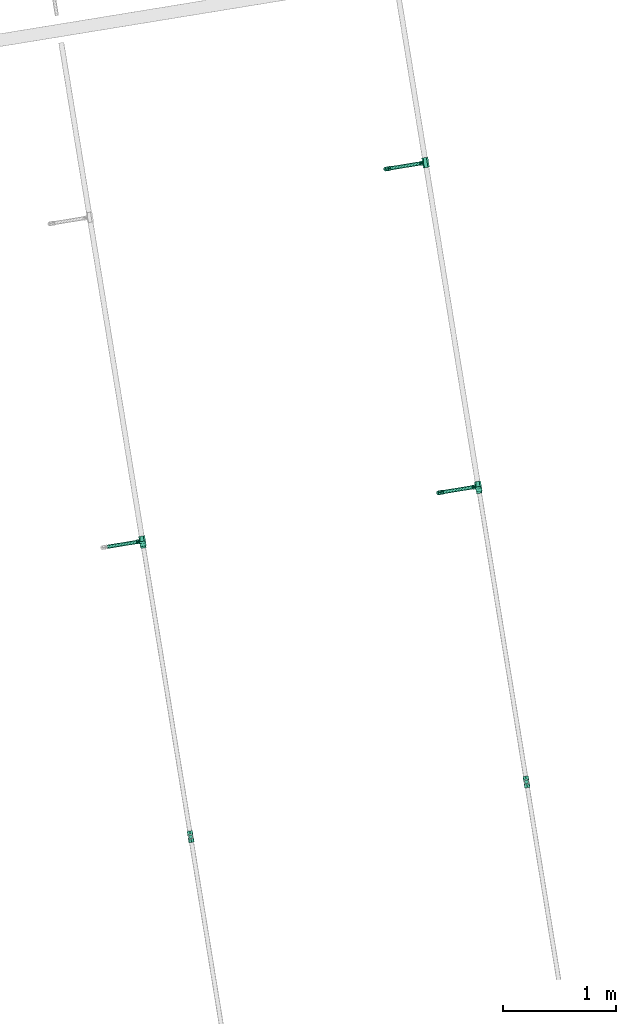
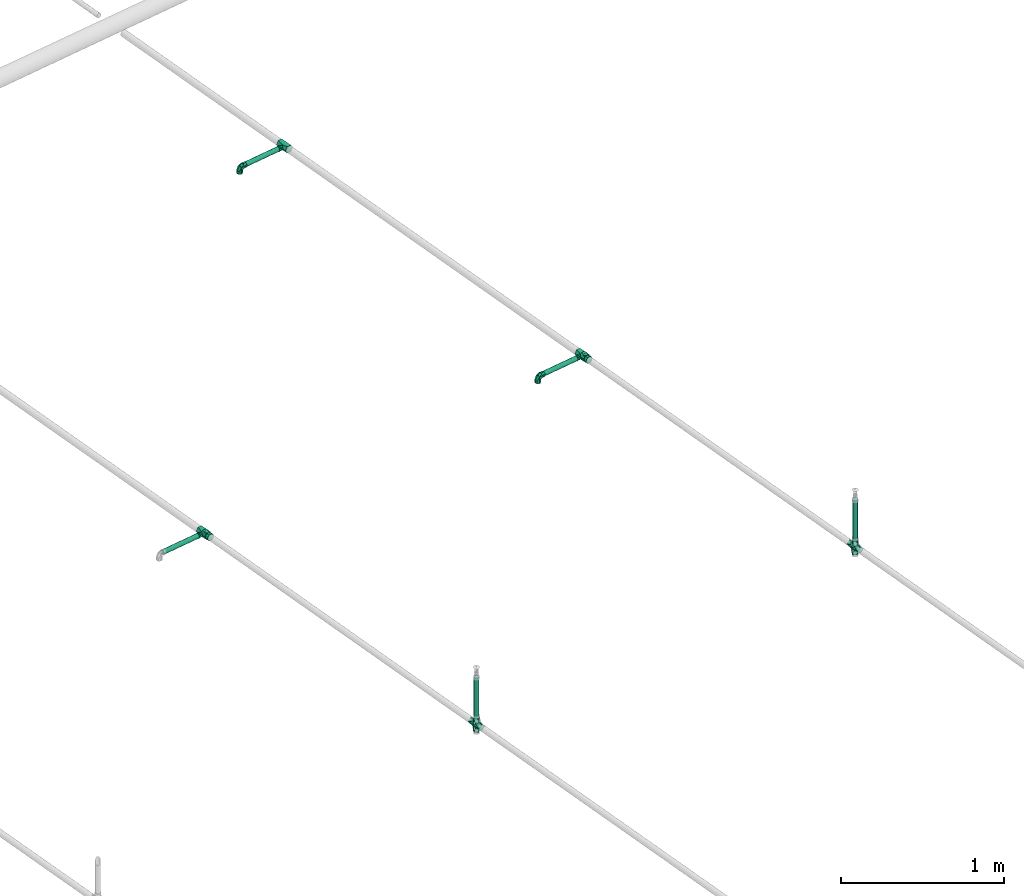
# One storey, part 22 of 56: 9 flow fittings, 5 flow segments.
"""IFC2X3 building model written with IfcOpenShell, lengths in millimetres."""

from ifc_helpers import new_model, entity, si_unit, converted_unit, derived_unit, direction, frame, origin, origin_with_axes, origin_2d_with_axis, place, context, subcontext, project, spatial, circle, extrude, faceted_brep, source, transform, mapped, material, type_object, element, save


model = new_model("IFC2X3")

# Units and contexts
model_context = context("Model", 3, precision=0.01, world=origin(), true_north=direction((6.12323399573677e-17, 1.0)))
plan_context = context("Plan", 3, precision=1e-05, world=origin_with_axes())
body_context = subcontext(model_context, "Body", "Model", "MODEL_VIEW")
ifc_project = project(units=[converted_unit("PLANEANGLEUNIT", "DEGREE", entity("IfcPositiveLengthMeasure", 0.0174532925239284), si_unit("PLANEANGLEUNIT", "RADIAN"), dimensions=[0, 0, 0, 0, 0, 0, 0]), si_unit("AREAUNIT", "SQUARE_METRE"), si_unit("LENGTHUNIT", "METRE", prefix="MILLI"), si_unit("MASSUNIT", "GRAM", prefix="KILO"), si_unit("POWERUNIT", "WATT"), si_unit("PRESSUREUNIT", "PASCAL", prefix="KILO"), si_unit("FORCEUNIT", "NEWTON", prefix="KILO"), si_unit("ELECTRICVOLTAGEUNIT", "VOLT"), si_unit("ELECTRICCURRENTUNIT", "AMPERE"), si_unit("THERMODYNAMICTEMPERATUREUNIT", "DEGREE_CELSIUS"), si_unit("TIMEUNIT", "SECOND"), si_unit("VOLUMEUNIT", "CUBIC_METRE"), derived_unit("LINEARVELOCITYUNIT", [(si_unit("LENGTHUNIT", "METRE"), 1), (si_unit("TIMEUNIT", "SECOND"), -1)]), derived_unit("VOLUMETRICFLOWRATEUNIT", [(si_unit("VOLUMEUNIT", "CUBIC_METRE"), 1), (si_unit("TIMEUNIT", "SECOND"), -1)]), derived_unit("THERMALTRANSMITTANCEUNIT", [(si_unit("POWERUNIT", "WATT"), 1), (si_unit("THERMODYNAMICTEMPERATUREUNIT", "KELVIN"), -1), (si_unit("AREAUNIT", "SQUARE_METRE"), -1)]), derived_unit("SOUNDPRESSUREUNIT", [(si_unit("PRESSUREUNIT", "PASCAL"), 1)])], contexts=[model_context, plan_context])

# Site, building, storey
site_placement = place(None, frame((-3.09682673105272e-06, 1.93776733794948e-05, 0.0), z_axis=(0.0, 0.0, 1.0), x_axis=(-0.160806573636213, 0.986985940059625, 0.0)))
site = spatial("IfcSite", under=ifc_project, at=site_placement, Name="Default", CompositionType="ELEMENT")
building_placement = place(site_placement, frame((0.0, 0.0, 0.0), z_axis=(0.0, 0.0, 1.0), x_axis=(1.0, -2.77555756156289e-17, 0.0)))
building = spatial("IfcBuilding", under=site, at=building_placement, Name="Bygning (endres i Project Information)", CompositionType="ELEMENT")
storey_placement = place(building_placement, frame((0.0, 0.0, 51360.0000000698), z_axis=(0.0, 0.0, 1.0), x_axis=(1.0, -2.77555756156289e-17, 0.0)))
storey = spatial("IfcBuildingStorey", under=building, at=storey_placement, Name="H01-Nivå D+0,36", CompositionType="ELEMENT", Elevation=51360.0000000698)

# Flow fittings
ifc_material = material(Name="3320.001")
pipe_fitting_type_1 = type_object("IfcPipeFittingType", Name="RS_53_PIF_UN_Cross-EN10241_MC_gen:RS_53_PIF_UN_Cross-EN10241_MC_gen", PredefinedType="NOTDEFINED", material=ifc_material)
shared_shape_1 = source(origin(), body_context, "Body", "Brep", [
    faceted_brep([(51.0, -12.2500000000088, 12.2499999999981), (51.0, 0.0, 24.4999999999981), (15.8118687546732, -15.8118687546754, 18.7145613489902), (20.1559343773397, -20.155934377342, 9.35728067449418), (24.5000000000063, -24.5000000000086, 0.0), (51.0, -19.2143724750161, 5.28562752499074), (0.0, 0.0, 24.4999999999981), (-15.8118687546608, -15.8118687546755, 18.7145613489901), (-51.0, 0.0, 24.4999999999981), (51.0, -24.5000000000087, 0.0), (-24.4999999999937, -24.5000000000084, 0.0), (-51.0, -18.3750000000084, 6.12499999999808), (-51.0, -24.5000000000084, 0.0), (24.5000000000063, 24.4999999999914, 0.0), (51.0, 18.3749999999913, 6.12499999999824), (51.0, 24.4999999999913, 0.0), (-24.4999999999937, 24.4999999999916, 0.0), (-51.0, 24.4999999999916, 0.0), (-51.0, 19.2143723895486, 5.28562761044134), (20.1559343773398, 20.1559343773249, 9.35728067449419), (15.8118687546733, 15.8118687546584, 18.7145613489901), (51.0, 12.2499999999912, 12.2499999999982), (-15.8118687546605, 15.8118687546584, 18.7145613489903), (51.0, 12.2499999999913, -12.2500000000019), (51.0, 0.0, -24.5000000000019), (15.8118687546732, 15.8118687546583, -18.714561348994), (51.0, 19.2143723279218, -5.28562767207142), (-51.0, 18.3749999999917, -6.12500000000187), (20.1559343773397, 20.1559343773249, -9.35728067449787), (0.0, 0.0, -24.5000000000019), (-15.8118687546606, 15.8118687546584, -18.7145613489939), (-51.0, 0.0, -24.5000000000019), (51.0, -18.3750000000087, -6.12500000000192), (15.8118687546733, -15.8118687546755, -18.7145613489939), (51.0, -12.2500000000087, -12.2500000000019), (20.1559343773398, -20.1559343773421, -9.35728067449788), (-12.2499999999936, -51.0, -12.2500000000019), (0.0, -51.0, -24.5000000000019), (12.2500000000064, -51.0, -12.2500000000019), (19.2143723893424, -51.0, -5.28562761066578), (24.5000000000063, -51.0, 0.0), (18.3750000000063, -51.0, 6.12499999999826), (12.2500000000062, -51.0, 12.2499999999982), (0.0, -51.0, 24.4999999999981), (-12.2499999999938, -51.0, 12.2499999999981), (-19.2143725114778, -51.0, 5.28562748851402), (-24.4999999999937, -51.0, 0.0), (-20.1559343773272, -20.155934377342, 9.35728067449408), (0.0, 51.0, 24.4999999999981), (-18.3749999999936, 51.0, 6.12499999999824), (-24.4999999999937, 51.0, 0.0), (24.5000000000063, 51.0, 0.0), (19.2143725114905, 51.0, 5.28562748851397), (18.3750000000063, 51.0, -6.12500000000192), (0.0, 51.0, -24.5000000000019), (-19.1158956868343, -19.115895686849, -10.1450468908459), (-13.7317913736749, -13.7317913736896, -20.2900937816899), (12.2500000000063, 51.0, -12.2500000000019), (-12.2499999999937, 51.0, -12.2500000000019), (-19.2143723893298, 51.0, -5.28562761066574), (-12.2499999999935, 51.0, 12.2499999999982), (12.2500000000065, 51.0, 12.2499999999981), (-20.1559343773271, 20.155934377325, 9.35728067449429), (-20.1559343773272, 20.155934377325, -9.35728067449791), (-51.0, -12.2500000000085, 12.2499999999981), (-51.0, 12.2499999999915, 12.2499999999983), (-51.0, 12.2499999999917, -12.2500000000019), (-51.0, -12.2500000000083, -12.2500000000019)], [[[0, 1, 2]], [[3, 4, 5]], [[2, 3, 0]], [[1, 6, 2]], [[7, 6, 8]], [[4, 9, 5]], [[10, 11, 12]], [[13, 14, 15]], [[16, 17, 18]], [[19, 20, 21]], [[20, 1, 21]], [[6, 1, 20]], [[22, 8, 6]], [[14, 13, 19]], [[19, 21, 14]], [[0, 3, 5]], [[23, 24, 25]], [[13, 15, 26]], [[16, 27, 17]], [[28, 13, 26]], [[25, 28, 23]], [[24, 29, 25]], [[30, 29, 31]], [[23, 28, 26]], [[4, 32, 9]], [[33, 24, 34]], [[29, 24, 33]], [[35, 33, 34]], [[35, 34, 32]], [[32, 4, 35]], [[36, 37, 38, 39, 40, 41, 42, 43, 44, 45, 46]], [[44, 43, 7]], [[47, 10, 45]], [[7, 47, 44]], [[43, 6, 7]], [[6, 48, 22]], [[10, 46, 45]], [[16, 49, 50]], [[4, 41, 40]], [[13, 51, 52]], [[3, 2, 42]], [[2, 43, 42]], [[6, 43, 2]], [[48, 6, 20]], [[41, 4, 3]], [[3, 42, 41]], [[44, 47, 45]], [[38, 37, 33]], [[4, 40, 39]], [[13, 53, 51]], [[35, 4, 39]], [[33, 35, 38]], [[37, 29, 33]], [[29, 54, 25]], [[38, 35, 39]], [[46, 55, 36]], [[56, 37, 36]], [[29, 37, 56]], [[55, 56, 36]], [[55, 46, 10]], [[53, 57, 54, 58, 59, 50, 49, 60, 48, 61, 52, 51]], [[61, 48, 20]], [[19, 13, 52]], [[20, 19, 61]], [[62, 22, 60]], [[22, 48, 60]], [[49, 16, 62]], [[62, 60, 49]], [[61, 19, 52]], [[58, 54, 30]], [[16, 50, 59]], [[63, 16, 59]], [[30, 63, 58]], [[54, 29, 30]], [[58, 63, 59]], [[25, 54, 57]], [[28, 25, 57]], [[28, 57, 53]], [[53, 13, 28]], [[12, 11, 64, 8, 65, 18, 17, 27, 66, 31, 67]], [[32, 34, 24, 23, 26, 15, 14, 21, 1, 0, 5, 9]], [[47, 64, 11]], [[7, 8, 64]], [[11, 10, 47]], [[22, 62, 65]], [[62, 16, 18]], [[65, 8, 22]], [[65, 62, 18]], [[47, 7, 64]], [[63, 66, 27]], [[27, 16, 63]], [[63, 30, 66]], [[67, 55, 12]], [[30, 31, 66]], [[55, 10, 12]], [[67, 31, 56]], [[56, 31, 29]], [[67, 56, 55]]]),
])
for number, where, z_axis, x_axis in (
    (1, (1000236.26325463, -395286.663841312, 3370.0), (-2.77555756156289e-17, -1.0, 0.0), (0.0, 0.0, 1.0)),
    (2, (1000236.26325463, -392286.663841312, 3370.0), (-2.77555756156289e-17, -1.0, 0.0), (0.0, 0.0, 1.0)),
):
    element("IfcFlowFitting", number, at=place(storey_placement, frame(where, z_axis=z_axis, x_axis=x_axis)), inside=storey, type_object=pipe_fitting_type_1, material=ifc_material, Name="RS_53_PIF_UN_Cross-EN10241_MC_gen:RS_53_PIF_UN_Cross-EN10241_MC_gen", ObjectType="RS_53_PIF_UN_Cross-EN10241_MC_gen:RS_53_PIF_UN_Cross-EN10241_MC_gen", context=body_context, shape_type="MappedRepresentation", body=[
        mapped(shared_shape_1, transform((0.0, 0.0, 0.0), scale=1.0)),
    ])
pipe_fitting_type_2 = type_object("IfcPipeFittingType", Name="RS_53_PIF_UN_Tee-Reduced-EN10241_MC_gen:RS_53_PIF_UN_Tee-Reduced-EN10241_MC_gen", PredefinedType="NOTDEFINED", material=ifc_material)
shared_shape_2 = source(origin(), body_context, "Body", "Brep", [
    faceted_brep([(44.0, -28.0, 0.0), (44.0, -21.0, -12.124355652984), (44.0, -14.0, -24.2487113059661), (44.0, 0.0, -24.2487113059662), (44.0, 14.0, -24.2487113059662), (44.0, 21.0, -12.1243556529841), (44.0, 28.0, 0.0), (44.0, 21.0, 12.1243556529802), (44.0, 14.0, 24.2487113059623), (44.0, 0.0, 24.2487113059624), (44.0, -14.0, 24.2487113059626), (44.0, -21.0, 12.1243556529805), (-44.0, -28.0, 0.0), (-44.0, -21.0, 12.1243556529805), (-44.0, -14.0, 24.2487113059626), (-44.0, 0.0, 24.2487113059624), (-44.0, 14.0, 24.2487113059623), (-44.0, 21.0, 12.1243556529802), (-44.0, 28.0, 0.0), (-44.0, 20.982647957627, -12.1544102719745), (-44.0, 14.0, -24.2487113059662), (-44.0, 0.0, -24.2487113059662), (-44.0, -14.0, -24.2487113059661), (-44.0, -21.0, -12.124355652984), (3.55028427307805, -20.1628871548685, 19.4282778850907), (11.6501421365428, -24.0814435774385, 9.71413894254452), (-19.7499999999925, -28.0, 0.0), (-8.09985786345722, -24.0814435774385, 9.71413894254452), (19.7500000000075, -28.0, 0.0), (-11.6531711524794, -24.0819773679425, -9.71358493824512), (-3.55634230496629, -20.1639547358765, -19.4271698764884), (8.0968288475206, -24.0819773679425, -9.71358493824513), (9.87500000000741, -52.0, -17.1040017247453), (14.8125000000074, -52.0, -8.55200086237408), (19.7500000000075, -52.0, 0.0), (14.8125000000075, -52.0, 8.55200086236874), (9.87500000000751, -52.0, 17.1040017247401), (0.0, -52.0, 17.1040017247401), (-9.87499999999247, -52.0, 17.1040017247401), (-14.8124999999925, -52.0, 8.55200086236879), (-19.7499999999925, -52.0, 0.0), (-14.8124999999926, -52.0, -8.55200086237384), (-9.87499999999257, -52.0, -17.1040017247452), (0.0, -52.0, -17.1040017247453)], [[[0, 1, 2, 3, 4, 5, 6, 7, 8, 9, 10, 11]], [[12, 13, 14, 15, 16, 17, 18, 19, 20, 21, 22, 23]], [[7, 6, 18, 17, 16, 8]], [[8, 16, 15, 9]], [[15, 14, 24]], [[11, 24, 25]], [[24, 9, 15]], [[12, 26, 13]], [[13, 26, 27, 24]], [[0, 11, 25]], [[0, 25, 28]], [[24, 14, 13]], [[24, 11, 10]], [[9, 24, 10]], [[19, 18, 6, 5, 4, 20]], [[23, 29, 12]], [[30, 1, 28, 31]], [[23, 30, 29]], [[12, 29, 26]], [[1, 0, 28]], [[23, 22, 30]], [[21, 20, 4, 3]], [[30, 21, 3]], [[30, 3, 2]], [[30, 2, 1]], [[21, 30, 22]], [[32, 33, 34, 35, 36, 37, 38, 39, 40, 41, 42, 43]], [[26, 41, 40]], [[29, 42, 41]], [[31, 43, 30]], [[32, 31, 33]], [[30, 42, 29]], [[28, 33, 31]], [[31, 32, 43]], [[34, 33, 28]], [[43, 42, 30]], [[26, 29, 41]], [[28, 35, 34]], [[25, 36, 35]], [[27, 37, 24]], [[38, 27, 39]], [[24, 36, 25]], [[26, 39, 27]], [[27, 38, 37]], [[40, 39, 26]], [[37, 36, 24]], [[28, 25, 35]]]),
])
for number, where, z_axis, x_axis in (
    (3, (1002876.93557438, -395286.663841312, 3370.0), (0.0, 0.0, 1.0), (-1.0, 2.77555756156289e-17, 0.0)),
    (4, (1005768.93557438, -395286.663841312, 3370.0), (0.0, 0.0, 1.0), (-1.0, 2.77555756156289e-17, 0.0)),
    (5, (1002876.93557438, -392286.663841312, 3370.0), (0.0, 0.0, 1.0), (-1.0, 2.77555756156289e-17, 0.0)),
):
    element("IfcFlowFitting", number, at=place(storey_placement, frame(where, z_axis=z_axis, x_axis=x_axis)), inside=storey, type_object=pipe_fitting_type_2, material=ifc_material, Name="RS_53_PIF_UN_Tee-Reduced-EN10241_MC_gen:RS_53_PIF_UN_Tee-Reduced-EN10241_MC_gen", ObjectType="RS_53_PIF_UN_Tee-Reduced-EN10241_MC_gen:RS_53_PIF_UN_Tee-Reduced-EN10241_MC_gen", context=body_context, shape_type="MappedRepresentation", body=[
        mapped(shared_shape_2, transform((0.0, 0.0, 0.0), scale=1.0)),
    ])
pipe_fitting_type_3 = type_object("IfcPipeFittingType", Name="RS_53_PIF_UN_Reducing-Socket-EN10241_MC_gen:RS_53_PIF_UN_Reducing-Socket-EN10241_MC_gen", PredefinedType="NOTDEFINED", material=ifc_material)
shared_shape_3 = source(origin(), body_context, "Body", "Brep", [
    faceted_brep([(0.0, -7.24693326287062, 27.0459231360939), (0.0, 0.0, 28.0), (0.0, 7.24693326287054, 27.0459231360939), (0.0, 14.0, 24.2487113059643), (0.0, 19.7989898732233, 19.7989898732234), (0.0, 24.2487113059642, 14.0), (0.0, 27.0459231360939, 7.24693326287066), (0.0, 28.0, 0.0), (0.0, 27.0459231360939, -7.24693326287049), (0.0, 24.2487113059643, -14.0), (0.0, 19.7989898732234, -19.7989898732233), (0.0, 14.0, -24.2487113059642), (0.0, 7.2469332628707, -27.0459231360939), (0.0, 0.0, -28.0), (0.0, -7.24693326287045, -27.0459231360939), (0.0, -14.0, -24.2487113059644), (0.0, -19.7989898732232, -19.7989898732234), (0.0, -24.2487113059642, -14.0), (0.0, -27.0459231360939, -7.24693326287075), (0.0, -28.0, 0.0), (0.0, -27.0459231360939, 7.24693326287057), (0.0, -24.2487113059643, 14.0), (0.0, -19.7989898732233, 19.7989898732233), (0.0, -14.0, 24.2487113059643), (20.0, 9.43067316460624, -25.9117989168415), (20.0, 21.4490865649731, -17.9982411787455), (20.0, 23.8802189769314, -13.7874602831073), (20.0, 26.3113513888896, -9.57667938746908), (20.0, 17.7243837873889, -21.1235683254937), (20.0, 13.9996810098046, -24.248895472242), (20.0, 27.1556756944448, -4.7883396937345), (20.0, 4.86166531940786, -27.5747023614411), (20.0, -0.000544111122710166, -27.5746064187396), (20.0, -4.86275354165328, -27.5745104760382), (20.0, 28.0, 0.0), (20.0, -14.0006379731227, -24.2483429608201), (20.0, -9.43169575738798, -25.9114267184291), (20.0, -23.8807630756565, -13.7865178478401), (20.0, -26.3117293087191, -9.57564101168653), (20.0, -21.449796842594, -17.9973946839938), (20.0, -17.7252174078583, -21.122868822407), (20.0, -28.0, 0.0), (20.0, -21.4497968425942, 17.9973946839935), (20.0, -23.8807630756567, 13.7865178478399), (20.0, -26.3117293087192, 9.57564101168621), (20.0, -17.7252174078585, 21.1228688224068), (20.0, -14.0006379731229, 24.24834296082), (20.0, -9.43169575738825, 25.9114267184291), (20.0, -4.86275354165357, 27.5745104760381), (20.0, -0.000544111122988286, 27.5746064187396), (20.0, 4.86166531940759, 27.5747023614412), (20.0, 27.1556756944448, 4.78833969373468), (20.0, 13.9996810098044, 24.2488954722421), (20.0, 9.43067316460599, 25.9117989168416), (20.0, 17.7243837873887, 21.1235683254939), (20.0, 21.449086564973, 17.9982411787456), (20.0, 26.3113513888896, 9.57667938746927), (20.0, 23.8802189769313, 13.7874602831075), (40.0, -23.0225328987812, -8.37931852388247), (40.0, -24.5000000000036, 0.0), (40.0, -18.7681935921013, -15.7481716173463), (40.0, 15.5089992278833, -18.482994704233), (40.0, 12.2499395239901, -21.2176573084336), (40.0, -12.2501209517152, -21.2175525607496), (40.0, -20.8953632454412, -12.0637450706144), (40.0, -15.5091572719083, -18.4828620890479), (40.0, -0.000103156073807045, -24.1277879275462), (40.0, -4.25449497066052, -24.1277697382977), (40.0, -8.25230796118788, -22.6726611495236), (40.0, 4.25428865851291, -24.1278061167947), (40.0, 8.25211409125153, -22.6727317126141), (40.0, 20.8952600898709, -12.0639237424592), (40.0, 18.7680589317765, -15.7483321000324), (40.0, 23.6863464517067, -4.61444575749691), (40.0, 23.0224612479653, -8.37951538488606), (40.0, 24.4999999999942, 0.0), (40.0, 23.7612306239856, -4.18975769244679), (40.0, 23.6863464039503, 4.61444602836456), (40.0, 23.7612306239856, 4.18975769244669), (40.0, 12.2499395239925, 21.2176573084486), (40.0, -12.250120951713, 21.2175525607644), (40.0, -15.509157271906, 18.4828620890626), (40.0, 18.7680589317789, 15.7483321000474), (40.0, 20.8952600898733, 12.0639237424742), (40.0, 4.2542886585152, 24.1278061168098), (40.0, 15.5089992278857, 18.482994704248), (40.0, 23.0224612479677, 8.37951538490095), (40.0, 8.25211409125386, 22.6727317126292), (40.0, -4.25449497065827, 24.1277697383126), (40.0, -18.7681935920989, 15.7481716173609), (40.0, -8.25230796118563, 22.6726611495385), (40.0, -23.0225328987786, 8.37931852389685), (40.0, -0.000103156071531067, 24.1277879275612), (40.0, -20.8953632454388, 12.0637450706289), (60.0, -12.25, -21.2176223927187), (60.0, -6.34106660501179, -23.6651827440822), (60.0, 0.0, -24.5), (60.0, 6.34106660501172, -23.6651827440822), (60.0, 12.25, -21.2176223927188), (60.0, 17.3241161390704, -17.3241161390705), (60.0, 21.2176223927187, -12.2500000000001), (60.0, 23.6651827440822, -6.34106660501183), (60.0, 24.5, 0.0), (60.0, 23.6651827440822, 6.34106660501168), (60.0, 21.2176223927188, 12.2499999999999), (60.0, 17.3241161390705, 17.3241161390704), (60.0, 12.2500000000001, 21.2176223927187), (60.0, 6.34106660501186, 23.6651827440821), (60.0, 0.0, 24.5), (60.0, -6.34106660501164, 23.6651827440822), (60.0, -12.2499999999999, 21.2176223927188), (60.0, -17.3241161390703, 17.3241161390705), (60.0, -21.2176223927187, 12.2500000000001), (60.0, -23.6651827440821, 6.34106660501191), (60.0, -24.5, 0.0), (60.0, -23.6651827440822, -6.34106660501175), (60.0, -21.2176223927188, -12.25), (60.0, -17.3241161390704, -17.3241161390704)], [[[0, 1, 2, 3, 4, 5, 6, 7, 8, 9, 10, 11, 12, 13, 14, 15, 16, 17, 18, 19, 20, 21, 22, 23]], [[12, 11, 24]], [[25, 10, 9]], [[26, 25, 9, 27]], [[11, 28, 29]], [[30, 27, 8]], [[8, 7, 30]], [[8, 27, 9]], [[24, 31, 12]], [[28, 10, 25]], [[32, 33, 13, 31]], [[11, 29, 24]], [[10, 28, 11]], [[7, 34, 30]], [[14, 13, 33]], [[35, 15, 36]], [[37, 38, 17, 39]], [[14, 36, 15]], [[38, 18, 17]], [[40, 39, 16]], [[36, 14, 33]], [[16, 39, 17]], [[15, 35, 40]], [[38, 41, 18]], [[41, 19, 18]], [[12, 31, 13]], [[16, 15, 40]], [[20, 19, 41]], [[42, 22, 21]], [[43, 42, 21, 44]], [[23, 45, 46]], [[20, 41, 44]], [[47, 48, 0]], [[45, 22, 42]], [[49, 50, 1, 48]], [[22, 45, 23]], [[2, 1, 50]], [[0, 48, 1]], [[6, 51, 7]], [[52, 3, 53]], [[20, 44, 21]], [[0, 23, 47]], [[4, 3, 54]], [[51, 34, 7]], [[2, 53, 3]], [[54, 55, 4]], [[53, 2, 50]], [[23, 46, 47]], [[4, 55, 5]], [[6, 5, 56]], [[56, 51, 6]], [[3, 52, 54]], [[5, 55, 57, 56]], [[58, 59, 38]], [[60, 39, 40]], [[61, 62, 28]], [[58, 38, 37]], [[63, 35, 36]], [[64, 39, 60]], [[59, 41, 38]], [[65, 35, 63]], [[37, 39, 64]], [[66, 67, 32]], [[40, 35, 65]], [[36, 33, 68]], [[68, 33, 67]], [[31, 69, 66]], [[69, 31, 24]], [[28, 25, 61]], [[70, 29, 62]], [[71, 72, 26]], [[30, 73, 27]], [[25, 26, 72]], [[64, 58, 37]], [[62, 29, 28]], [[27, 73, 74]], [[30, 75, 76, 73]], [[26, 27, 71]], [[65, 60, 40]], [[61, 25, 72]], [[27, 74, 71]], [[75, 30, 34]], [[32, 67, 33]], [[32, 31, 66]], [[24, 29, 70]], [[70, 69, 24]], [[68, 63, 36]], [[51, 77, 78, 75]], [[52, 79, 54]], [[80, 46, 81]], [[57, 82, 83]], [[84, 53, 50]], [[85, 54, 79]], [[77, 56, 86]], [[34, 51, 75]], [[85, 55, 54]], [[87, 52, 53]], [[51, 56, 77]], [[83, 86, 56]], [[57, 55, 82]], [[49, 48, 88]], [[47, 46, 80]], [[81, 45, 89]], [[87, 53, 84]], [[90, 47, 80]], [[44, 59, 91]], [[43, 44, 91]], [[79, 52, 87]], [[45, 42, 89]], [[92, 49, 88]], [[47, 90, 48]], [[42, 43, 93]], [[81, 46, 45]], [[82, 55, 85]], [[93, 43, 91]], [[41, 59, 44]], [[57, 83, 56]], [[88, 48, 90]], [[50, 49, 92]], [[89, 42, 93]], [[84, 50, 92]], [[94, 95, 96, 97, 98, 99, 100, 101, 102, 103, 104, 105, 106, 107, 108, 109, 110, 111, 112, 113, 114, 115, 116, 117]], [[115, 114, 59]], [[60, 117, 116]], [[64, 60, 116, 58]], [[94, 65, 63]], [[115, 59, 58]], [[68, 67, 95]], [[65, 117, 60]], [[66, 69, 96, 67]], [[117, 65, 94]], [[69, 97, 96]], [[95, 67, 96]], [[97, 70, 98]], [[70, 62, 98]], [[74, 101, 100]], [[95, 94, 68]], [[98, 62, 61]], [[76, 75, 102]], [[115, 58, 116]], [[97, 69, 70]], [[99, 72, 100]], [[61, 72, 99]], [[99, 98, 61]], [[71, 74, 100, 72]], [[101, 76, 102]], [[94, 63, 68]], [[101, 74, 73, 76]], [[107, 106, 87]], [[82, 105, 104]], [[83, 82, 104, 86]], [[106, 85, 79]], [[103, 78, 77, 86]], [[103, 102, 78]], [[103, 86, 104]], [[87, 84, 107]], [[85, 105, 82]], [[92, 88, 108, 84]], [[106, 79, 87]], [[105, 85, 106]], [[102, 75, 78]], [[109, 108, 88]], [[80, 110, 90]], [[93, 91, 112, 89]], [[109, 90, 110]], [[91, 113, 112]], [[81, 89, 111]], [[90, 109, 88]], [[111, 89, 112]], [[110, 80, 81]], [[91, 59, 113]], [[59, 114, 113]], [[107, 84, 108]], [[111, 110, 81]]]),
])
for number, where, z_axis, x_axis in (
    (6, (1002874.33557438, -395286.663841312, 3370.0), (0.0, 0.0, 1.0), (-1.0, 2.77555756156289e-17, 0.0)),
    (7, (1002874.33557438, -392286.663841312, 3370.0), (0.0, 0.0, 1.0), (-1.0, 2.77555756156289e-17, 0.0)),
):
    element("IfcFlowFitting", number, at=place(storey_placement, frame(where, z_axis=z_axis, x_axis=x_axis)), inside=storey, type_object=pipe_fitting_type_3, material=ifc_material, Name="RS_53_PIF_UN_Reducing-Socket-EN10241_MC_gen:RS_53_PIF_UN_Reducing-Socket-EN10241_MC_gen", ObjectType="RS_53_PIF_UN_Reducing-Socket-EN10241_MC_gen:RS_53_PIF_UN_Reducing-Socket-EN10241_MC_gen", context=body_context, shape_type="MappedRepresentation", body=[
        mapped(shared_shape_3, transform((0.0, 0.0, 0.0), scale=1.0)),
    ])
pipe_fitting_type_4 = type_object("IfcPipeFittingType", Name="RS_53_PIF_UN_Elbow-EN10241_NOR:RS_53_PIF_UN_Elbow-EN10241_NOR", PredefinedType="NOTDEFINED", material=ifc_material)
shared_shape_4 = source(origin(), body_context, "Body", "Brep", [
    faceted_brep([(-43.0, 5.11167614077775, 19.0770350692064), (-43.0, 17.1040017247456, 9.87499999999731), (-43.0, 19.7500000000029, 0.0), (-43.0, 17.1040017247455, -9.87500000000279), (-43.0, 5.11167614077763, -19.0770350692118), (-43.0, -5.11167614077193, -19.0770350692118), (-43.0, -17.1040017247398, -9.87500000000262), (-43.0, -19.7499999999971, 0.0), (-43.0, -17.1040017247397, 9.87499999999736), (-43.0, -5.11167614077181, 19.0770350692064), (-21.7499999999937, -19.7499999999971, 0.0), (-21.7499999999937, -15.1293510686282, -12.6950870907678), (-21.7499999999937, -3.42946974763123, -19.4499675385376), (-21.7499999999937, 15.1294711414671, -12.694943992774), (-21.7499999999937, 19.7500000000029, 0.0), (-21.7499999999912, 5.85000069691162, -16.072455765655), (-21.7499999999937, 15.1294711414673, 12.6949439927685), (-21.7499999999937, 3.42965371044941, 19.4499351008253), (-21.7499999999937, -15.1293510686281, 12.6950870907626), (-5.41688095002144, -10.3200693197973, 0.0), (0.655979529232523, -2.00253561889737, 16.4678355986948), (-11.0449015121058, 9.84579831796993, 18.897380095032), (-18.5589216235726, 21.7499999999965, 6.75491881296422), (-15.1293490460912, 21.7499999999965, 12.6950895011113), (-20.3357864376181, 20.3357864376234, 0.0), (-19.7499999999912, 21.7499999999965, 0.0), (14.190054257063, 1.0, 0.0), (12.6950125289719, 21.7499999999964, 15.1294136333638), (6.75482439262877, 21.7499999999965, 18.5589559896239), (17.2232575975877, 12.3200689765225, 0.0), (-6.754824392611, 21.7499999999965, 18.558955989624), (19.7500000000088, 21.7499999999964, 0.0), (18.5589216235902, 21.7499999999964, 6.75491881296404), (0.0, 21.7499999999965, 19.7499999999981), (-18.5589216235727, 21.7499999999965, -6.75491881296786), (-10.1618436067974, 10.1618877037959, -19.0082217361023), (1.2569166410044, -0.890945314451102, -16.7093898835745), (0.0, 21.7499999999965, -19.7500000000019), (-6.75482439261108, 21.7499999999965, -18.5589559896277), (-12.6950125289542, 21.7499999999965, -15.1294136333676), (18.5589216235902, 21.7499999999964, -6.75491881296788), (15.1293490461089, 21.7499999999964, -12.6950895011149), (6.75482439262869, 21.7499999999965, -18.5589559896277), (-9.8749999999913, 43.0, 17.1040017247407), (0.0, 43.0, 19.7499999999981), (9.8750000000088, 43.0, 17.1040017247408), (19.0770350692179, 43.0, 5.11167614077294), (19.0770350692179, 43.0, -5.11167614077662), (9.87500000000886, 43.0, -17.1040017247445), (0.0, 43.0, -19.7500000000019), (-9.87499999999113, 43.0, -17.1040017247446), (-19.0770350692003, 43.0, -5.11167614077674), (-19.0770350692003, 43.0, 5.11167614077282)], [[[0, 1, 2, 3, 4, 5, 6, 7, 8, 9]], [[7, 6, 10]], [[6, 11, 10]], [[11, 6, 5]], [[11, 5, 12]], [[13, 4, 3]], [[14, 3, 2]], [[4, 13, 15, 12]], [[13, 3, 14]], [[4, 12, 5]], [[2, 1, 14]], [[1, 16, 14]], [[16, 1, 0]], [[16, 0, 17]], [[18, 9, 8]], [[10, 8, 7]], [[9, 18, 17]], [[18, 8, 10]], [[9, 17, 0]], [[18, 19, 20]], [[20, 21, 17]], [[22, 16, 23]], [[16, 17, 21]], [[24, 14, 22]], [[22, 25, 24]], [[14, 16, 22]], [[20, 26, 27]], [[27, 28, 20]], [[26, 29, 27]], [[23, 21, 30]], [[31, 32, 29]], [[18, 20, 17]], [[26, 20, 19]], [[21, 23, 16]], [[18, 10, 19]], [[33, 21, 20]], [[33, 30, 21]], [[27, 29, 32]], [[33, 20, 28]], [[14, 24, 34]], [[25, 34, 24]], [[12, 35, 36]], [[14, 34, 13]], [[36, 19, 11]], [[37, 35, 38]], [[38, 35, 39]], [[10, 11, 19]], [[34, 39, 13]], [[37, 36, 35]], [[36, 11, 12]], [[39, 35, 13]], [[40, 31, 29]], [[41, 36, 42]], [[36, 37, 42]], [[41, 40, 29]], [[26, 36, 41]], [[29, 26, 41]], [[19, 36, 26]], [[13, 35, 12, 15]], [[43, 44, 45, 46, 47, 48, 49, 50, 51, 52]], [[49, 37, 38]], [[50, 38, 39]], [[49, 38, 50]], [[51, 50, 39]], [[51, 34, 25]], [[34, 51, 39]], [[52, 25, 22]], [[22, 23, 52]], [[30, 43, 23]], [[52, 23, 43]], [[44, 43, 30]], [[33, 44, 30]], [[25, 52, 51]], [[44, 33, 28]], [[45, 28, 27]], [[44, 28, 45]], [[46, 45, 27]], [[46, 32, 31]], [[32, 46, 27]], [[47, 31, 40]], [[40, 41, 47]], [[42, 48, 41]], [[47, 41, 48]], [[49, 48, 42]], [[37, 49, 42]], [[31, 47, 46]]]),
])
for number, where, z_axis, x_axis in (
    (8, (1002876.93557438, -394931.017686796, 3370.0), (1.0, -2.77555756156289e-17, 0.0), (0.0, 0.0, 1.0)),
    (9, (1005768.93557438, -394931.017686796, 3370.0), (1.0, -2.77555756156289e-17, 0.0), (0.0, 0.0, 1.0)),
):
    element("IfcFlowFitting", number, at=place(storey_placement, frame(where, z_axis=z_axis, x_axis=x_axis)), inside=storey, type_object=pipe_fitting_type_4, material=ifc_material, Name="RS_53_PIF_UN_Elbow-EN10241_NOR:RS_53_PIF_UN_Elbow-EN10241_NOR", ObjectType="RS_53_PIF_UN_Elbow-EN10241_NOR:RS_53_PIF_UN_Elbow-EN10241_NOR", context=body_context, shape_type="MappedRepresentation", body=[
        mapped(shared_shape_4, transform((0.0, 0.0, 0.0), scale=1.0)),
    ])

# Flow segments
pipe_segment_type = type_object("IfcPipeSegmentType", Name="Pipe Types:Stålrør sveist og gjenget", PredefinedType="NOTDEFINED", material=ifc_material)
flow_segment_1_placement = place(storey_placement, frame((0.0, 0.0, 0.0), z_axis=(0.0, 0.0, 1.0), x_axis=(1.0, -2.77555756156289e-17, 0.0)))
element("IfcFlowSegment", 10, at=flow_segment_1_placement, inside=storey, type_object=pipe_segment_type, Name="Pipe Types:Stålrør sveist og gjenget", ObjectType="Pipe Types:Stålrør sveist og gjenget", context=body_context, shape_type="SweptSolid", body=[
    extrude(circle(Radius=16.8500004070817, at=origin_2d_with_axis()), frame((1000236.26325463, -395286.663841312, 3418.26666666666), z_axis=(0.0, 0.0, 1.0), x_axis=(-1.0, 0.0, 0.0)), (0.0, 0.0, 1.0), 306.733333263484),
])
flow_segment_2_placement = place(storey_placement, frame((0.0, 0.0, 0.0), z_axis=(0.0, 0.0, 1.0), x_axis=(1.0, -2.77555756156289e-17, 0.0)))
element("IfcFlowSegment", 11, at=flow_segment_2_placement, inside=storey, type_object=pipe_segment_type, Name="Pipe Types:Stålrør sveist og gjenget", ObjectType="Pipe Types:Stålrør sveist og gjenget", context=body_context, shape_type="SweptSolid", body=[
    extrude(circle(Radius=16.8500004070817, at=origin_2d_with_axis()), frame((1002876.93557438, -395253.763841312, 3370.0), z_axis=(0.0, 1.0, 0.0), x_axis=(-1.0, 0.0, 0.0)), (0.0, 0.0, 1.0), 298.846154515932),
])
flow_segment_3_placement = place(storey_placement, frame((0.0, 0.0, 0.0), z_axis=(0.0, 0.0, 1.0), x_axis=(1.0, -2.77555756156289e-17, 0.0)))
element("IfcFlowSegment", 12, at=flow_segment_3_placement, inside=storey, type_object=pipe_segment_type, Name="Pipe Types:Stålrør sveist og gjenget", ObjectType="Pipe Types:Stålrør sveist og gjenget", context=body_context, shape_type="SweptSolid", body=[
    extrude(circle(Radius=16.8500004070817, at=origin_2d_with_axis()), frame((1005768.93557438, -395253.763841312, 3370.0), z_axis=(0.0, 1.0, 0.0), x_axis=(-1.0, 0.0, 0.0)), (0.0, 0.0, 1.0), 298.846154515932),
])
flow_segment_4_placement = place(storey_placement, frame((0.0, 0.0, 0.0), z_axis=(0.0, 0.0, 1.0), x_axis=(1.0, -2.77555756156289e-17, 0.0)))
element("IfcFlowSegment", 13, at=flow_segment_4_placement, inside=storey, type_object=pipe_segment_type, Name="Pipe Types:Stålrør sveist og gjenget", ObjectType="Pipe Types:Stålrør sveist og gjenget", context=body_context, shape_type="SweptSolid", body=[
    extrude(circle(Radius=16.8500004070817, at=origin_2d_with_axis()), frame((1000236.26325463, -392286.663841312, 3418.26666666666), z_axis=(0.0, 0.0, 1.0), x_axis=(-1.0, 0.0, 0.0)), (0.0, 0.0, 1.0), 306.733333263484),
])
flow_segment_5_placement = place(storey_placement, frame((0.0, 0.0, 0.0), z_axis=(0.0, 0.0, 1.0), x_axis=(1.0, -2.77555756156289e-17, 0.0)))
element("IfcFlowSegment", 14, at=flow_segment_5_placement, inside=storey, type_object=pipe_segment_type, Name="Pipe Types:Stålrør sveist og gjenget", ObjectType="Pipe Types:Stålrør sveist og gjenget", context=body_context, shape_type="SweptSolid", body=[
    extrude(circle(Radius=16.8500004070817, at=origin_2d_with_axis()), frame((1002876.93557438, -392253.763841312, 3370.0), z_axis=(0.0, 1.0, 0.0), x_axis=(-1.0, 0.0, 0.0)), (0.0, 0.0, 1.0), 298.846154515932),
])

save(model, "model.ifc")
